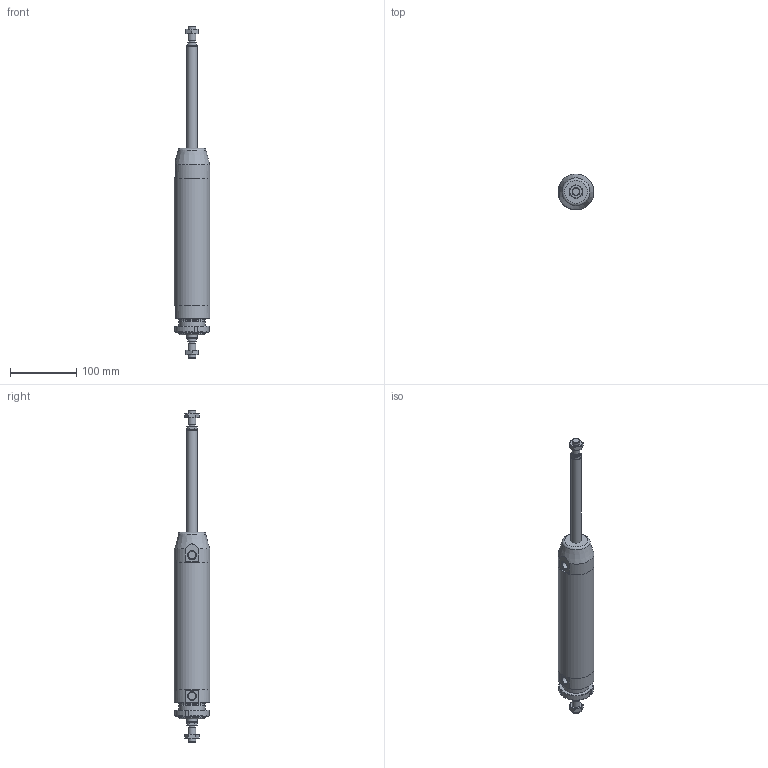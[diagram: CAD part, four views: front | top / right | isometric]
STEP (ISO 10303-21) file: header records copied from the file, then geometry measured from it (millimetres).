
FILE_DESCRIPTION(/* description */ (''),/* implementation_level */ '2;1');
FILE_NAME(/* name */ 'I:\Area Tecnica\Documenti\A-Manieri\_Inventor\12X\12X#T_###_####_#_#\12XCT_050_0150_#_#.stp',/* time_stamp */ '2015-05-13T08:46:12+02:00',/* author */ ('maniean1'),/* organization */ ('Pneumax S.p.A.'),/* preprocessor_version */ 'ST-DEVELOPER v15.2',/* originating_system */ 'Autodesk Inventor 2014',/* authorisation */ '');
FILE_SCHEMA (('AUTOMOTIVE_DESIGN { 1 0 10303 214 3 1 1 }'));
Length unit declared in the file: millimetre
Products named in the file (7): C1250_619-0150; 12X50_604; SP12X50_0150; 12X_50_11; 12X50_613; G12X_050_05; 12XCT_050_0150_#_#
Bounding box: 54 x 54 x 502 mm (x, y, z)
Volume: 393084.6 mm3; surface area: 128489.8 mm2
Topology: 7 solids, 7 shells, 107 faces, 238 edges, 152 vertices
Faces by surface type: plane 54, cylinder 26, cone 26, torus 1
Full cylindrical faces by diameter (mm): 10.2 x2, 11.4 x2, 12 x4, 14 x2, 15.6 x2, 16 x2, 38.2 x1, 40 x3, 50 x2, 54 x3
Entity records: 2546 total; most frequent: CARTESIAN_POINT 474, DIRECTION 433, ORIENTED_EDGE 338, AXIS2_PLACEMENT_3D 187, EDGE_CURVE 169, EDGE_LOOP 150, VERTEX_POINT 129, ADVANCED_FACE 96
